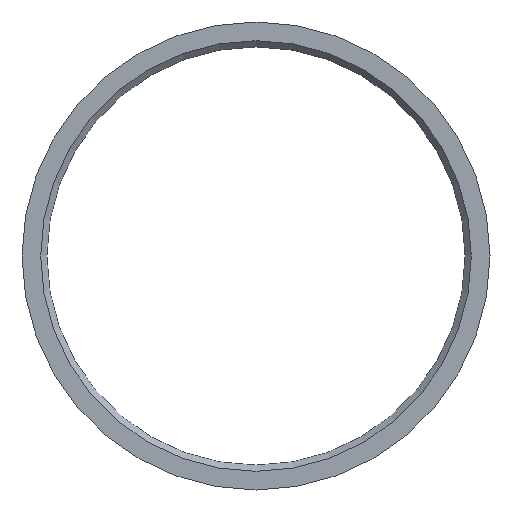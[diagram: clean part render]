
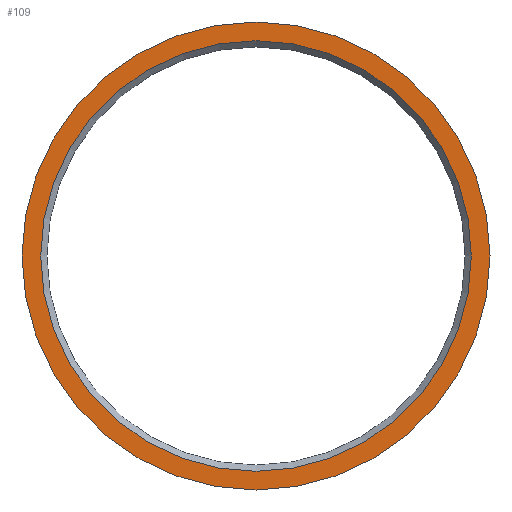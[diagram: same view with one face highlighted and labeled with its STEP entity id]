
A CAD part, front view. The second image highlights one B-rep face of the part: STEP entity #109.
In plain terms, the highlighted planar face has unit normal (0, -1, 0).
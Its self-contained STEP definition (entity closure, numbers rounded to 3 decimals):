
#16=FACE_BOUND('',#34,.T.);
#18=PLANE('',#144);
#25=FACE_OUTER_BOUND('',#33,.T.);
#33=EDGE_LOOP('',(#90));
#34=EDGE_LOOP('',(#91));
#51=CIRCLE('',#143,34.55);
#52=CIRCLE('',#145,37.55);
#59=VERTEX_POINT('',#202);
#60=VERTEX_POINT('',#206);
#70=EDGE_CURVE('',#59,#59,#51,.T.);
#71=EDGE_CURVE('',#60,#60,#52,.T.);
#90=ORIENTED_EDGE('',*,*,#71,.F.);
#91=ORIENTED_EDGE('',*,*,#70,.F.);
#109=ADVANCED_FACE('',(#25,#16),#18,.F.);
#143=AXIS2_PLACEMENT_3D('',#204,#171,#172);
#144=AXIS2_PLACEMENT_3D('',#205,#173,#174);
#145=AXIS2_PLACEMENT_3D('',#207,#175,#176);
#171=DIRECTION('center_axis',(0.,-1.,0.));
#172=DIRECTION('ref_axis',(1.,0.,0.));
#173=DIRECTION('center_axis',(0.,1.,0.));
#174=DIRECTION('ref_axis',(0.,0.,1.));
#175=DIRECTION('center_axis',(0.,1.,0.));
#176=DIRECTION('ref_axis',(-1.,0.,0.));
#202=CARTESIAN_POINT('',(-34.55,0.,0.));
#204=CARTESIAN_POINT('Origin',(0.,0.,0.));
#205=CARTESIAN_POINT('Origin',(0.,0.,0.));
#206=CARTESIAN_POINT('',(-37.55,0.,0.));
#207=CARTESIAN_POINT('Origin',(0.,0.,0.));
